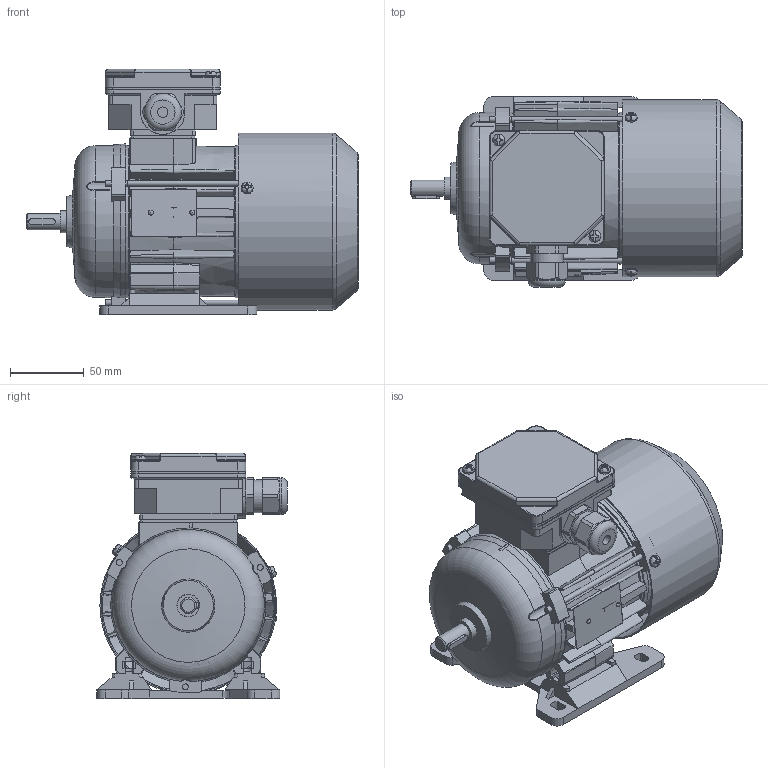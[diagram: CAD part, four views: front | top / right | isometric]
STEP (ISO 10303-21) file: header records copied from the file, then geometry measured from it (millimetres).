
FILE_DESCRIPTION( ( 'Unknown' ), '1' );
FILE_NAME( 'G:/Poczta Tk-1/STP/w.m.63/Sh63/Sh63-C.stp', 'Unknown', ( 'K. Szlosek' ), ( 'BESEL S.A.' ), 'PSStep 17.0.49', 'Unknown', ' ' );
FILE_SCHEMA( ( 'AUTOMOTIVE_DESIGN { 1 0 10303 214 1 1 1 1 }' ) );
Length unit declared in the file: millimetre
Products named in the file (30): Assem1; K3-9973 Kadłub ze stojanem wykończonym Sh63-C; K3-5320 Tarcza łożyskowa P Sg63; K4-2320 Uszczelka nr 1 Sh71,80; Wpust A4x4x18; K3-5321 osłona przewietrznika Sg63; K4-2820 Uszczelka nr 2 Sh71,80; K2-0860 Pokrywka skrzynki zaciskowej; Wkręt samogwintujący M4x16; K2-1769 Przewietrznik Sg63; Wkręt samogwintujący M4x8; Nitokołek A 2x6; K3-9974 wał Sh63-C standard; K2-0859 Podstawa skrzynki 6-cio zaciskowej; Łożysko 6202; Dławnica M20x1,5; Śruba ściągająca E_M4x100; Tabliczka znamionowa 32x44; K1-1107 Łapa Sg63-.. w. robocza; K2-1763 Tarcza łożyskowa N Sh63
Assembly tree (46 placements, depth 2):
  Assem1
    K3-9973 Kadłub ze stojanem wykończonym Sh63-C
    K3-5320 Tarcza łożyskowa P Sg63
    K4-2320 Uszczelka nr 1 Sh71,80
    Wpust A4x4x18
    K3-5321 osłona przewietrznika Sg63
    K4-2820 Uszczelka nr 2 Sh71,80
    K2-0860 Pokrywka skrzynki zaciskowej
    Wkręt samogwintujący M4x16  x2
    K2-1769 Przewietrznik Sg63
    Wkręt samogwintujący M4x8  x3
    Nitokołek A 2x6  x2
    K3-9974 wał Sh63-C standard
    K2-0859 Podstawa skrzynki 6-cio zaciskowej
    Łożysko 6202  x2
    Łożysko 6202  x2
    Łożysko 6202  x2
    Łożysko 6202  x2
    Łożysko 6202  x2
    Łożysko 6202  x2
    Łożysko 6202  x2
    Łożysko 6202  x2
    Łożysko 6202  x2
    Łożysko 6202  x2
    Łożysko 6202  x2
    Dławnica M20x1,5
    Śruba ściągająca E_M4x100  x3
    Tabliczka znamionowa 32x44
    K1-1107 Łapa Sg63-.. w. robocza
    K2-1763 Tarcza łożyskowa N Sh63
Bounding box: 224.5 x 129 x 166 mm (x, y, z)
Volume: 542614.7 mm3; surface area: 364492.7 mm2
Topology: 46 solids, 64 shells, 2049 faces, 5655 edges, 3668 vertices
Faces by surface type: plane 1018, cylinder 577, cone 160, torus 144, bspline 111, sphere 39
Full cylindrical faces by diameter (mm): 2 x2, 2.4 x2, 3.242 x3, 3.7 x10, 4 x8, 4.5 x4, 4.8 x4, 5 x4, 5.8 x4, 7 x4, 8 x6, 11 x1, 12.9 x1, 13.1 x1, 13.5 x1, 15 x4, 15.4 x2, 18.376 x1, 18.38 x1, 19 x2, 19.5 x1, 20 x2, 20.1 x1, 21.52 x4, 22.3 x1, 25 x1, 28 x2, 28.48 x4, 31 x2, 32 x1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
Entity records: 92511 total; most frequent: CARTESIAN_POINT 30450, ORIENTED_EDGE 9906, DIRECTION 9359, EDGE_CURVE 4953, AXIS2_PLACEMENT_3D 3488, VERTEX_POINT 3355, LINE 2383, VECTOR 2383
